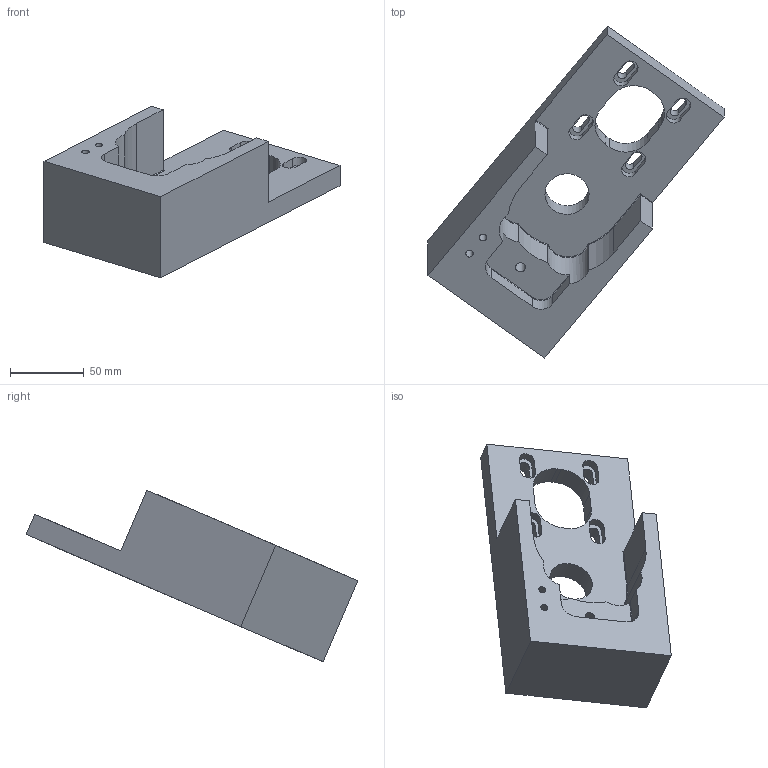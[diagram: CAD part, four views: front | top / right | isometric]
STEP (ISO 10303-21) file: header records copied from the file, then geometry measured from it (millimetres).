
FILE_DESCRIPTION((''),'2;1');
FILE_NAME('C:\Users\User\Desktop\Mastercam-harjoitukset\MCAM_MILL_6\Kotelo.stp','2020-03-23T23:30:24',(''),(''),'STEP Write','Mastercam 2020 ... CNC Software, Inc.','');
FILE_SCHEMA(('AUTOMOTIVE_DESIGN'));
Length unit declared in the file: millimetre
Products named in the file (1): None
Bounding box: 201.05 x 225.44 x 116.63 mm (x, y, z)
Volume: 540362.2 mm3; surface area: 76248.8 mm2
Topology: 1 solids, 1 shells, 87 faces, 228 edges, 147 vertices
Faces by surface type: plane 39, cylinder 38, torus 7, cone 3
Full cylindrical faces by diameter (mm): 5 x2, 6.8 x1, 30 x1
Entity records: 2827 total; most frequent: CARTESIAN_POINT 535, DIRECTION 467, ORIENTED_EDGE 436, EDGE_CURVE 218, AXIS2_PLACEMENT_3D 168, VERTEX_POINT 144, VECTOR 131, LINE 131
